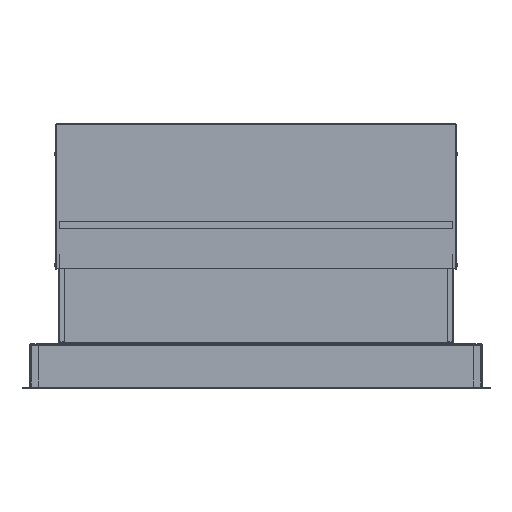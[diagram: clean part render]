
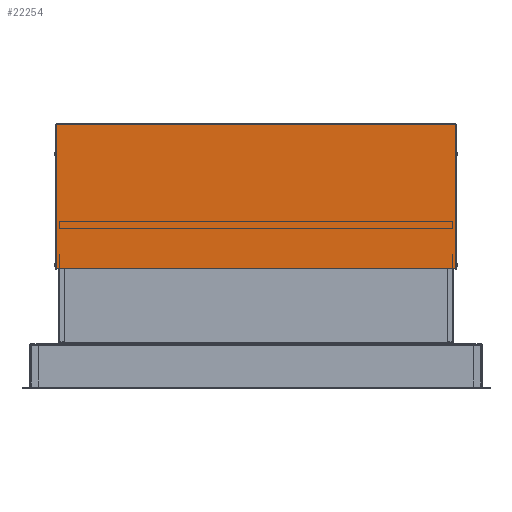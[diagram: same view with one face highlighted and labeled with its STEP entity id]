
A CAD part, front view. The second image highlights one B-rep face of the part: STEP entity #22254.
In plain terms, the highlighted planar face has unit normal (0, -1, -0.017) as drawn and (0, -1, 0) by its records, which use the part's own axes.
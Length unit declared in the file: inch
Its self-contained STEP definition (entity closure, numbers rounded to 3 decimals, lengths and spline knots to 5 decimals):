
#336 = VERTEX_POINT ( 'NONE', #15944 ) ;
#803 = CARTESIAN_POINT ( 'NONE',  ( 14.68751, -0.422, 18.00038 ) ) ;
#1320 = DIRECTION ( 'NONE',  ( -1., 0., 0. ) ) ;
#1344 = CARTESIAN_POINT ( 'NONE',  ( 1.74508, -0.422, 17.97687 ) ) ;
#1696 = AXIS2_PLACEMENT_3D ( 'NONE', #5647, #20080, #9401 ) ;
#2171 = DIRECTION ( 'NONE',  ( 0., 0., -1. ) ) ;
#2455 = VERTEX_POINT ( 'NONE', #14279 ) ;
#2937 = VECTOR ( 'NONE', #12094, 39.37008 ) ;
#3855 = EDGE_CURVE ( 'NONE', #7021, #7512, #13885, .T. ) ;
#3858 = CARTESIAN_POINT ( 'NONE',  ( 1.75751, -0.422, -17.97687 ) ) ;
#4209 = DIRECTION ( 'NONE',  ( 1., 0., 0. ) ) ;
#4237 = CARTESIAN_POINT ( 'NONE',  ( 1.75751, -0.422, 18.04725 ) ) ;
#4445 = VECTOR ( 'NONE', #15928, 39.37008 ) ;
#5583 = CARTESIAN_POINT ( 'NONE',  ( 1.75751, -0.422, -18.00037 ) ) ;
#5647 = CARTESIAN_POINT ( 'NONE',  ( 14.68751, -0.422, 18.04725 ) ) ;
#5765 = ORIENTED_EDGE ( 'NONE', *, *, #8883, .T. ) ;
#5948 = LINE ( 'NONE', #5583, #11395 ) ;
#6680 = ORIENTED_EDGE ( 'NONE', *, *, #22806, .T. ) ;
#6871 = CARTESIAN_POINT ( 'NONE',  ( 14.68751, -0.422, -17.97687 ) ) ;
#7006 = DIRECTION ( 'NONE',  ( 0., 0., -1. ) ) ;
#7021 = VERTEX_POINT ( 'NONE', #10483 ) ;
#7113 = EDGE_LOOP ( 'NONE', ( #5765, #13300, #17119, #22711, #6680, #18895, #16114, #11704 ) ) ;
#7218 = EDGE_CURVE ( 'NONE', #18407, #18263, #8700, .T. ) ;
#7327 = EDGE_CURVE ( 'NONE', #12734, #7021, #22952, .T. ) ;
#7512 = VERTEX_POINT ( 'NONE', #3858 ) ;
#7999 = FACE_OUTER_BOUND ( 'NONE', #7113, .T. ) ;
#8142 = VECTOR ( 'NONE', #7006, 39.37008 ) ;
#8582 = CARTESIAN_POINT ( 'NONE',  ( 14.68751, -0.422, -18.00037 ) ) ;
#8700 = LINE ( 'NONE', #15806, #2937 ) ;
#8883 = EDGE_CURVE ( 'NONE', #2455, #12734, #10489, .T. ) ;
#8933 = CARTESIAN_POINT ( 'NONE',  ( 14.68751, -0.422, 18.00038 ) ) ;
#9086 = LINE ( 'NONE', #10376, #18139 ) ;
#9090 = VECTOR ( 'NONE', #19316, 39.37008 ) ;
#9401 = DIRECTION ( 'NONE',  ( 1., 0., 0. ) ) ;
#10376 = CARTESIAN_POINT ( 'NONE',  ( 1.75751, -0.422, 18.04725 ) ) ;
#10483 = CARTESIAN_POINT ( 'NONE',  ( 1.74508, -0.422, -17.97687 ) ) ;
#10489 = LINE ( 'NONE', #17589, #11114 ) ;
#11114 = VECTOR ( 'NONE', #1320, 39.37008 ) ;
#11395 = VECTOR ( 'NONE', #4209, 39.37008 ) ;
#11456 = VERTEX_POINT ( 'NONE', #16913 ) ;
#11704 = ORIENTED_EDGE ( 'NONE', *, *, #13153, .T. ) ;
#12094 = DIRECTION ( 'NONE',  ( 0., 0., -1. ) ) ;
#12734 = VERTEX_POINT ( 'NONE', #15562 ) ;
#13153 = EDGE_CURVE ( 'NONE', #336, #2455, #9086, .T. ) ;
#13300 = ORIENTED_EDGE ( 'NONE', *, *, #7327, .T. ) ;
#13389 = LINE ( 'NONE', #8933, #4445 ) ;
#13830 = VECTOR ( 'NONE', #2171, 39.37008 ) ;
#13885 = LINE ( 'NONE', #6871, #9090 ) ;
#14092 = EDGE_CURVE ( 'NONE', #18407, #336, #13389, .T. ) ;
#14279 = CARTESIAN_POINT ( 'NONE',  ( 1.75751, -0.422, 17.97687 ) ) ;
#15562 = CARTESIAN_POINT ( 'NONE',  ( 1.74508, -0.422, 17.97687 ) ) ;
#15711 = EDGE_CURVE ( 'NONE', #7512, #11456, #21703, .T. ) ;
#15806 = CARTESIAN_POINT ( 'NONE',  ( 14.68751, -0.422, 18.04725 ) ) ;
#15928 = DIRECTION ( 'NONE',  ( -1., 0., 0. ) ) ;
#15944 = CARTESIAN_POINT ( 'NONE',  ( 1.75751, -0.422, 18.00038 ) ) ;
#16114 = ORIENTED_EDGE ( 'NONE', *, *, #14092, .T. ) ;
#16913 = CARTESIAN_POINT ( 'NONE',  ( 1.75751, -0.422, -18.00037 ) ) ;
#17119 = ORIENTED_EDGE ( 'NONE', *, *, #3855, .T. ) ;
#17589 = CARTESIAN_POINT ( 'NONE',  ( 14.68751, -0.422, 17.97687 ) ) ;
#18139 = VECTOR ( 'NONE', #19198, 39.37008 ) ;
#18263 = VERTEX_POINT ( 'NONE', #8582 ) ;
#18407 = VERTEX_POINT ( 'NONE', #803 ) ;
#18895 = ORIENTED_EDGE ( 'NONE', *, *, #7218, .F. ) ;
#19198 = DIRECTION ( 'NONE',  ( 0., 0., -1. ) ) ;
#19316 = DIRECTION ( 'NONE',  ( 1., 0., 0. ) ) ;
#20080 = DIRECTION ( 'NONE',  ( 0., -1., 0. ) ) ;
#21609 = PLANE ( 'NONE',  #1696 ) ;
#21703 = LINE ( 'NONE', #4237, #13830 ) ;
#22254 = ADVANCED_FACE ( 'NONE', ( #7999 ), #21609, .T. ) ;
#22711 = ORIENTED_EDGE ( 'NONE', *, *, #15711, .T. ) ;
#22806 = EDGE_CURVE ( 'NONE', #11456, #18263, #5948, .T. ) ;
#22952 = LINE ( 'NONE', #1344, #8142 ) ;
